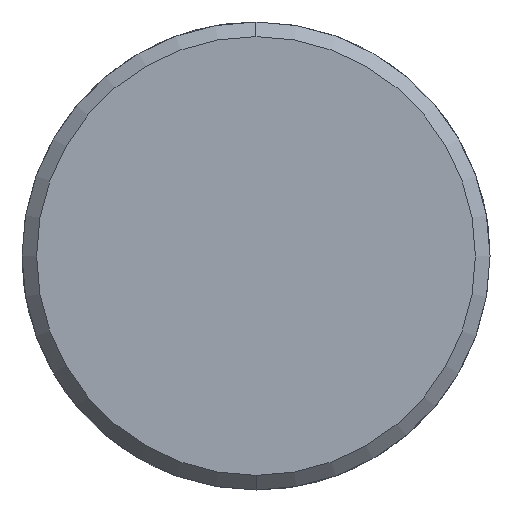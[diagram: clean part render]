
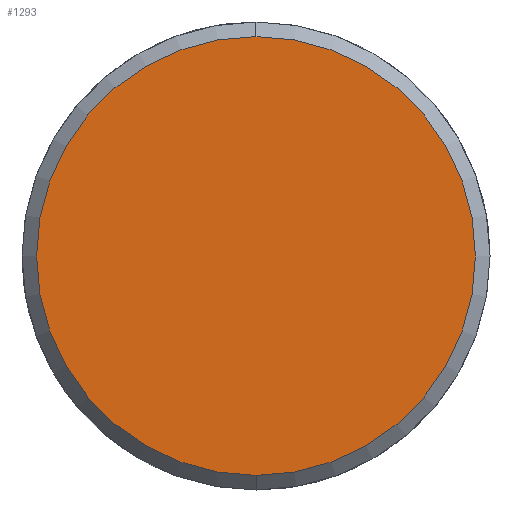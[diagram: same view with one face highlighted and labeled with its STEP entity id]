
A CAD part, left-side view. The second image highlights one B-rep face of the part: STEP entity #1293.
In plain terms, the highlighted planar face has unit normal (-1, 0, 0).
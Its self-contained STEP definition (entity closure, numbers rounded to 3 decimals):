
#1225=CARTESIAN_POINT('Vertex',(-6.,0.,-15.)) ;
#1228=CARTESIAN_POINT('Axis2P3D Location',(-6.,0.,0.)) ;
#1232=CARTESIAN_POINT('Vertex',(-6.,15.,0.)) ;
#1235=CARTESIAN_POINT('Axis2P3D Location',(-6.,0.,0.)) ;
#1239=CARTESIAN_POINT('Vertex',(-6.,0.,15.)) ;
#1261=CARTESIAN_POINT('Axis2P3D Location',(-6.,0.,0.)) ;
#1265=CARTESIAN_POINT('Vertex',(-6.,-15.,0.)) ;
#1268=CARTESIAN_POINT('Axis2P3D Location',(-6.,0.,0.)) ;
#1282=CARTESIAN_POINT('Axis2P3D Location',(-6.,0.,0.)) ;
#1229=DIRECTION('Axis2P3D Direction',(1.,0.,-0.)) ;
#1236=DIRECTION('Axis2P3D Direction',(1.,0.,-0.)) ;
#1262=DIRECTION('Axis2P3D Direction',(1.,0.,-0.)) ;
#1269=DIRECTION('Axis2P3D Direction',(1.,0.,-0.)) ;
#1283=DIRECTION('Axis2P3D Direction',(1.,0.,-0.)) ;
#1284=DIRECTION('Axis2P3D XDirection',(-0.,0.,-1.)) ;
#1230=AXIS2_PLACEMENT_3D('Circle Axis2P3D',#1228,#1229,$) ;
#1237=AXIS2_PLACEMENT_3D('Circle Axis2P3D',#1235,#1236,$) ;
#1263=AXIS2_PLACEMENT_3D('Circle Axis2P3D',#1261,#1262,$) ;
#1270=AXIS2_PLACEMENT_3D('Circle Axis2P3D',#1268,#1269,$) ;
#1285=AXIS2_PLACEMENT_3D('Plane Axis2P3D',#1282,#1283,#1284) ;
#1288=ORIENTED_EDGE('',*,*,#1234,.F.) ;
#1289=ORIENTED_EDGE('',*,*,#1272,.F.) ;
#1290=ORIENTED_EDGE('',*,*,#1267,.F.) ;
#1291=ORIENTED_EDGE('',*,*,#1241,.F.) ;
#1293=ADVANCED_FACE('351-20X76X200',(#1292),#1286,.F.) ;
#1231=CIRCLE('generated circle',#1230,15.) ;
#1238=CIRCLE('generated circle',#1237,15.) ;
#1264=CIRCLE('generated circle',#1263,15.) ;
#1271=CIRCLE('generated circle',#1270,15.) ;
#1234=EDGE_CURVE('',#1226,#1233,#1231,.T.) ;
#1241=EDGE_CURVE('',#1233,#1240,#1238,.T.) ;
#1267=EDGE_CURVE('',#1240,#1266,#1264,.T.) ;
#1272=EDGE_CURVE('',#1266,#1226,#1271,.T.) ;
#1287=EDGE_LOOP('',(#1288,#1289,#1290,#1291)) ;
#1292=FACE_OUTER_BOUND('',#1287,.T.) ;
#1286=PLANE('Plane',#1285) ;
#1226=VERTEX_POINT('',#1225) ;
#1233=VERTEX_POINT('',#1232) ;
#1240=VERTEX_POINT('',#1239) ;
#1266=VERTEX_POINT('',#1265) ;
